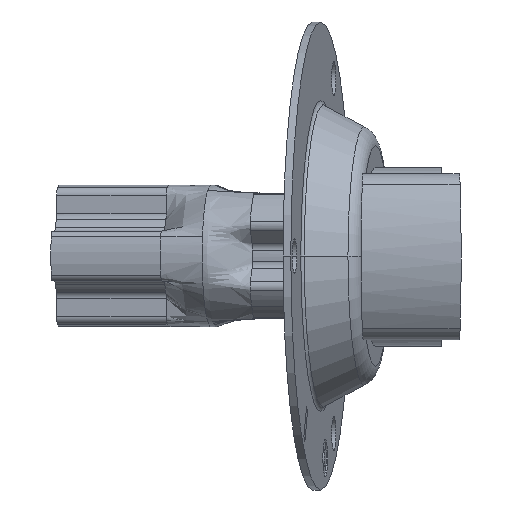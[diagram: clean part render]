
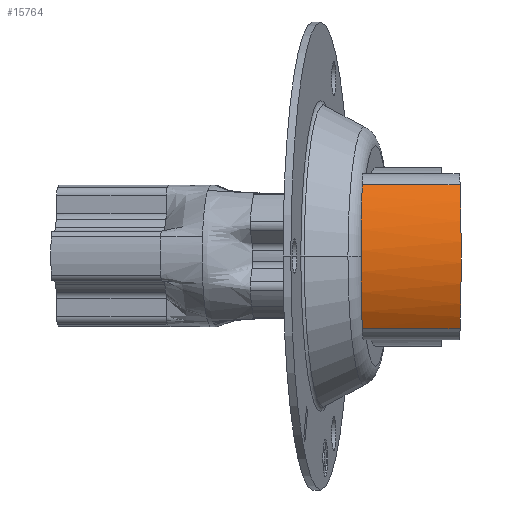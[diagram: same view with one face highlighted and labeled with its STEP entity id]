
A CAD part, left-side view. The second image highlights one B-rep face of the part: STEP entity #15764.
In plain terms, the highlighted cylindrical face has radius 24 mm (diameter 48 mm), a partial arc.
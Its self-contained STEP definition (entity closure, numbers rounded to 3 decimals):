
#1518 =( BOUNDED_CURVE ( )  B_SPLINE_CURVE ( 3, ( #1568, #1567, #1566, #1565 ),
 .UNSPECIFIED., .F., .T. ) 
 B_SPLINE_CURVE_WITH_KNOTS ( ( 4, 4 ),
 ( 2.535, 3.748 ),
 .UNSPECIFIED. ) 
 CURVE ( )  GEOMETRIC_REPRESENTATION_ITEM ( )  RATIONAL_B_SPLINE_CURVE ( ( 1., 0.881, 0.881, 1. ) ) 
 REPRESENTATION_ITEM ( '' )  );
#1565 = CARTESIAN_POINT ( 'NONE',  ( -107.059, 3.527, -13.684 ) ) ;
#1566 = CARTESIAN_POINT ( 'NONE',  ( -112.963, 3.26, -5.177 ) ) ;
#1567 = CARTESIAN_POINT ( 'NONE',  ( -112.963, 3.26, 5.177 ) ) ;
#1568 = CARTESIAN_POINT ( 'NONE',  ( -107.059, 3.527, 13.684 ) ) ;
#1579 = CARTESIAN_POINT ( 'NONE',  ( -107.059, 22.14, 13.684 ) ) ;
#1580 = CARTESIAN_POINT ( 'NONE',  ( -112.963, 22.406, 5.177 ) ) ;
#1581 = CARTESIAN_POINT ( 'NONE',  ( -112.963, 22.406, -5.177 ) ) ;
#1582 = CARTESIAN_POINT ( 'NONE',  ( -107.059, 22.14, -13.684 ) ) ;
#1583 =( BOUNDED_CURVE ( )  B_SPLINE_CURVE ( 3, ( #1582, #1581, #1580, #1579 ),
 .UNSPECIFIED., .F., .T. ) 
 B_SPLINE_CURVE_WITH_KNOTS ( ( 4, 4 ),
 ( 5.677, 6.89 ),
 .UNSPECIFIED. ) 
 CURVE ( )  GEOMETRIC_REPRESENTATION_ITEM ( )  RATIONAL_B_SPLINE_CURVE ( ( 1., 0.881, 0.881, 1. ) ) 
 REPRESENTATION_ITEM ( '' )  );
#1693 = DIRECTION ( 'NONE',  ( 0., 0., -1. ) ) ;
#1694 = DIRECTION ( 'NONE',  ( 0., 1., 0. ) ) ;
#1695 = AXIS2_PLACEMENT_3D ( 'NONE', #1702, #1694, #1693 ) ;
#1696 = CYLINDRICAL_SURFACE ( 'NONE', #1695, 24. ) ;
#1702 = CARTESIAN_POINT ( 'NONE',  ( -87.342, -5.126, 0. ) ) ;
#1705 = FACE_OUTER_BOUND ( 'NONE', #15765, .T. ) ;
#12785 = CARTESIAN_POINT ( 'NONE',  ( -107.059, 22.14, -13.684 ) ) ;
#12786 = DIRECTION ( 'NONE',  ( 0., -1., 0. ) ) ;
#12787 = VECTOR ( 'NONE', #12786, 1000. ) ;
#12788 = CARTESIAN_POINT ( 'NONE',  ( -107.059, -5.126, -13.684 ) ) ;
#12789 = LINE ( 'NONE', #12788, #12787 ) ;
#12790 = CARTESIAN_POINT ( 'NONE',  ( -107.059, 3.527, -13.684 ) ) ;
#12924 = CARTESIAN_POINT ( 'NONE',  ( -107.059, 3.527, 13.684 ) ) ;
#12954 = DIRECTION ( 'NONE',  ( 0., 1., 0. ) ) ;
#12955 = VECTOR ( 'NONE', #12954, 1000. ) ;
#12956 = CARTESIAN_POINT ( 'NONE',  ( -107.059, -5.126, 13.684 ) ) ;
#12962 = LINE ( 'NONE', #12956, #12955 ) ;
#12963 = CARTESIAN_POINT ( 'NONE',  ( -107.059, 22.14, 13.684 ) ) ;
#15689 = EDGE_CURVE ( 'NONE', #17539, #17450, #1518, .T. ) ;
#15690 = ORIENTED_EDGE ( 'NONE', *, *, #17545, .T. ) ;
#15719 = EDGE_CURVE ( 'NONE', #17453, #17543, #1583, .T. ) ;
#15764 = ADVANCED_FACE ( 'NONE', ( #1705 ), #1696, .T. ) ;
#15765 = EDGE_LOOP ( 'NONE', ( #15766, #15767, #15768, #15690 ) ) ;
#15766 = ORIENTED_EDGE ( 'NONE', *, *, #15719, .F. ) ;
#15767 = ORIENTED_EDGE ( 'NONE', *, *, #17452, .T. ) ;
#15768 = ORIENTED_EDGE ( 'NONE', *, *, #15689, .F. ) ;
#17450 = VERTEX_POINT ( 'NONE', #12790 ) ;
#17452 = EDGE_CURVE ( 'NONE', #17453, #17450, #12789, .T. ) ;
#17453 = VERTEX_POINT ( 'NONE', #12785 ) ;
#17539 = VERTEX_POINT ( 'NONE', #12924 ) ;
#17543 = VERTEX_POINT ( 'NONE', #12963 ) ;
#17545 = EDGE_CURVE ( 'NONE', #17539, #17543, #12962, .T. ) ;
